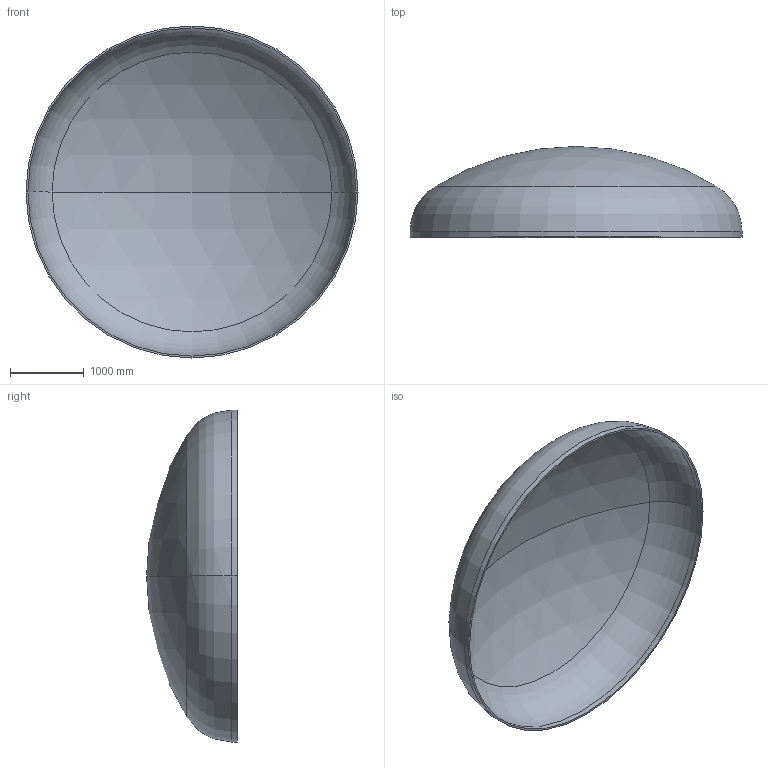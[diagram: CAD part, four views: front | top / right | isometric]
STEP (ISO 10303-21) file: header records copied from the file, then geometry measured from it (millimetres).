
FILE_DESCRIPTION (( 'STEP AP203' ), '1' );
FILE_NAME ('DIN 28013 Korbbogenform_-_Boden DIN 28013 - 4500 x 75 - I - s=25.step', '2016-07-01T23:12:44', ( '' ), ( '' ), 'SwSTEP 2.0', 'SolidWorks 2013', '' );
FILE_SCHEMA (( 'CONFIG_CONTROL_DESIGN' ));
Length unit declared in the file: millimetre
Products named in the file (1): DIN 28013 Korbbogenform_-_Boden DIN 28013 - 4500 x 75 - I - s=25
Bounding box: 4500 x 1230.56 x 4500 mm (x, y, z)
Volume: 573334024.7 mm3; surface area: 46219478.7 mm2
Topology: 1 solids, 1 shells, 13 faces, 24 edges, 14 vertices
Faces by surface type: torus 4, cylinder 4, sphere 4, plane 1
Entity records: 407 total; most frequent: DIRECTION 72, CARTESIAN_POINT 52, ORIENTED_EDGE 48, AXIS2_PLACEMENT_3D 34, EDGE_CURVE 24, CIRCLE 20, VERTEX_POINT 14, EDGE_LOOP 14
